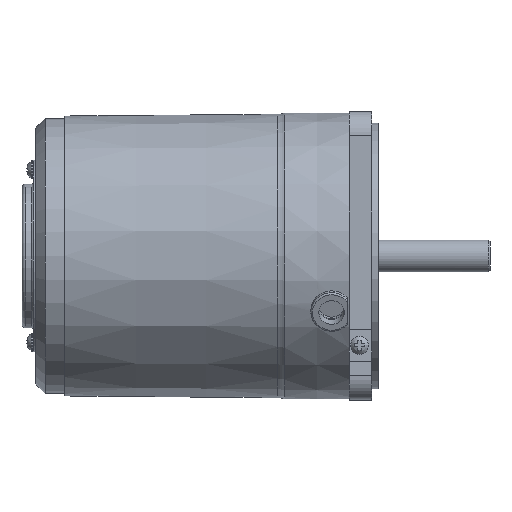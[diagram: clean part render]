
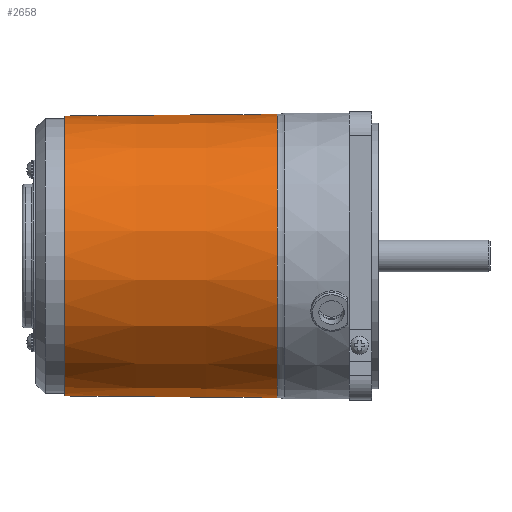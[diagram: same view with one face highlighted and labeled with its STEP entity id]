
A CAD part, top view. The second image highlights one B-rep face of the part: STEP entity #2658.
In plain terms, the highlighted conical face has half-angle 0.48 degrees and reference radius 44.029 mm.
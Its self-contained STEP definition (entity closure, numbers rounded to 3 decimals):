
#15=CONICAL_SURFACE('',#2902,44.029,0.48);
#547=FACE_BOUND('',#872,.T.);
#676=FACE_OUTER_BOUND('',#871,.T.);
#871=EDGE_LOOP('',(#2151));
#872=EDGE_LOOP('',(#2152));
#1016=CIRCLE('',#2901,43.75);
#1017=CIRCLE('',#2903,44.308);
#1224=VERTEX_POINT('',#4498);
#1225=VERTEX_POINT('',#4501);
#1547=EDGE_CURVE('',#1224,#1224,#1016,.T.);
#1548=EDGE_CURVE('',#1225,#1225,#1017,.T.);
#2151=ORIENTED_EDGE('',*,*,#1548,.F.);
#2152=ORIENTED_EDGE('',*,*,#1547,.T.);
#2658=ADVANCED_FACE('',(#676,#547),#15,.T.);
#2901=AXIS2_PLACEMENT_3D('',#4499,#3492,#3493);
#2902=AXIS2_PLACEMENT_3D('',#4500,#3494,#3495);
#2903=AXIS2_PLACEMENT_3D('',#4502,#3496,#3497);
#3492=DIRECTION('center_axis',(1.,0.,0.));
#3493=DIRECTION('ref_axis',(0.,1.,0.));
#3494=DIRECTION('center_axis',(1.,0.,0.));
#3495=DIRECTION('ref_axis',(0.,1.,0.));
#3496=DIRECTION('center_axis',(1.,0.,0.));
#3497=DIRECTION('ref_axis',(0.,1.,0.));
#4498=CARTESIAN_POINT('',(9.,43.75,0.));
#4499=CARTESIAN_POINT('Origin',(9.,0.,0.));
#4500=CARTESIAN_POINT('Origin',(42.279,0.,
0.));
#4501=CARTESIAN_POINT('',(75.559,44.308,0.));
#4502=CARTESIAN_POINT('Origin',(75.559,0.,0.));
